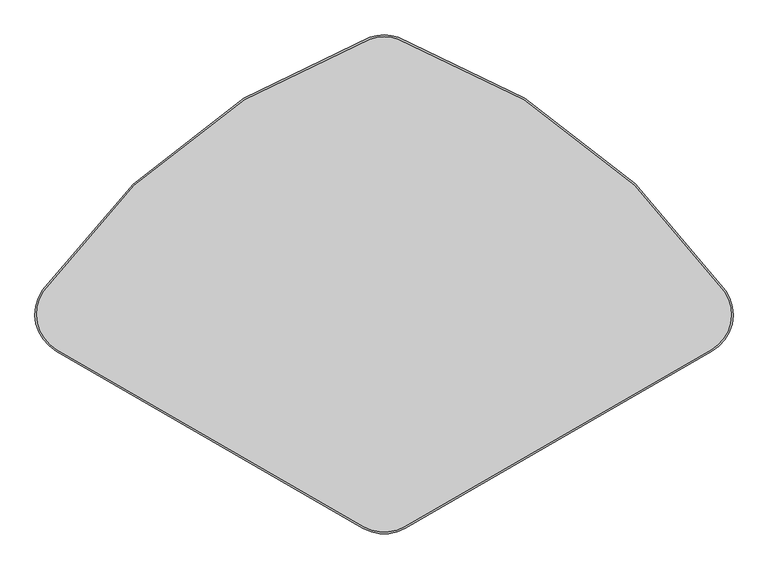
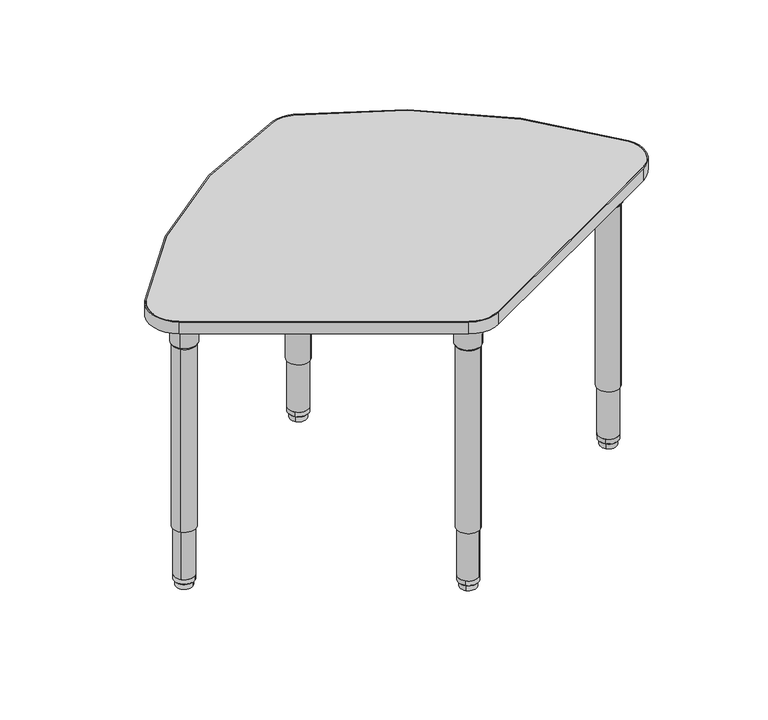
"""IFC4 building model written with IfcOpenShell, lengths in millimetres: furniture geometry, ERG-Mingle-Table-Tear_Droop : MGLTPD."""

from ifc_helpers import new_model, si_unit, point, frame, frame_2d, origin, place, context, project, spatial, polyline, circle_curve, trimmed, segment, composite_curve, outline, extrude, source, transform, mapped, element, save
from ifc_brep_helpers import plane_surface, cylinder_surface, revolved_surface, advanced_brep


def furniture_8ffb9708(model_context):
    return source(origin(), model_context, "Body", "SolidModel", [
        advanced_brep(
        [(517.9510449, 21.2381755, 650.5933069), (539.1892204, 0.0, 650.5933069), (560.4273958, -21.2381755, 650.5933069), (516.4600627, 22.7291577, 654.3580481), (561.918378, -22.7291577, 654.3580481), (515.7985771, 23.3906432, 707.7631458), (562.5798636, -23.3906432, 707.7631458), (513.3593755, 25.8298449, 714.1198315), (565.0190653, -25.8298449, 714.1198315), (513.3593755, 25.8298449, 726.8198315), (565.0190653, -25.8298449, 726.8198315), (539.1892204, 0.0, 726.8198315)],
        [
            (0, 1),
            (1, 2),
            (2, 0, circle_curve(frame((539.1892204, 0.0, 650.5933069), z_axis=(0.0, 0.0, -1.0), x_axis=(0.7071067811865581, -0.7071067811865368, 0.0)), 30.0353158)),
            (0, 2, circle_curve(frame((539.1892204, 0.0, 650.5933069), z_axis=(0.0, 0.0, -1.0), x_axis=(0.7071067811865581, -0.7071067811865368, 0.0)), 30.0353158)),
            (3, 0),
            (2, 4),
            (4, 3, circle_curve(frame((539.1892204, 0.0, 654.3580481), z_axis=(0.0, 0.0, -1.0), x_axis=(0.7071067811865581, -0.7071067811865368, 0.0)), 32.143883)),
            (3, 4, circle_curve(frame((539.1892204, 0.0, 654.3580481), z_axis=(0.0, 0.0, -1.0), x_axis=(0.7071067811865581, -0.7071067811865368, 0.0)), 32.143883)),
            (5, 3),
            (4, 6),
            (6, 5, circle_curve(frame((539.1892204, 0.0, 707.7631458), z_axis=(0.0, 0.0, -1.0), x_axis=(0.7071067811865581, -0.7071067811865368, 0.0)), 33.0793649)),
            (5, 6, circle_curve(frame((539.1892204, 0.0, 707.7631458), z_axis=(0.0, 0.0, -1.0), x_axis=(0.7071067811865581, -0.7071067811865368, 0.0)), 33.0793649)),
            (7, 5),
            (6, 8),
            (8, 7, circle_curve(frame((539.1892204, 0.0, 714.1198315), z_axis=(0.0, 0.0, -1.0), x_axis=(0.7071067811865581, -0.7071067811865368, 0.0)), 36.528917)),
            (7, 8, circle_curve(frame((539.1892204, 0.0, 714.1198315), z_axis=(0.0, 0.0, -1.0), x_axis=(0.7071067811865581, -0.7071067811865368, 0.0)), 36.528917)),
            (9, 7),
            (8, 10),
            (10, 9, circle_curve(frame((539.1892204, 0.0, 726.8198315), z_axis=(0.0, 0.0, -1.0), x_axis=(0.7071067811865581, -0.7071067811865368, 0.0)), 36.528917)),
            (9, 10, circle_curve(frame((539.1892204, 0.0, 726.8198315), z_axis=(0.0, 0.0, -1.0), x_axis=(0.7071067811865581, -0.7071067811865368, 0.0)), 36.528917)),
            (11, 9),
            (10, 11),
        ],
        [
            plane_surface(frame((539.1892204, 0.0, 650.5933069), z_axis=(0.0, 0.0, -1.0), x_axis=(0.7071067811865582, -0.7071067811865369, 0.0))),
            revolved_surface(polyline([(560.4273958, -21.2381755, 650.5933069), (561.918378, -22.7291577, 654.3580481)]), (539.1892204, 0.0, 726.8198315), (0.0, 0.0, 1.0)),
            revolved_surface(polyline([(561.918378, -22.7291577, 654.3580481), (562.5798636, -23.3906432, 707.7631458)]), (539.1892204, 0.0, 726.8198315), (0.0, 0.0, 1.0)),
            revolved_surface(polyline([(562.5798636, -23.3906432, 707.7631458), (565.0190653, -25.8298449, 714.1198315)]), (539.1892204, 0.0, 726.8198315), (0.0, 0.0, 1.0)),
            cylinder_surface(frame((539.1892204, 0.0, 726.8198315), z_axis=(0.0, 0.0, 1.0), x_axis=(0.7071067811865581, -0.7071067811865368, 0.0)), 36.528917),
            plane_surface(frame((539.1892204, 0.0, 726.8198315), z_axis=(0.0, 0.0, 1.0), x_axis=(0.7071067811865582, -0.7071067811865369, 0.0))),
        ],
        [
            (0, [[1, 2, 3]]),
            (0, [[-2, -1, 4]]),
            (1, [[5, -3, 6, 7]]),
            (1, [[-6, -4, -5, 8]]),
            (2, [[9, -7, 10, 11]]),
            (2, [[-10, -8, -9, 12]]),
            (3, [[13, -11, 14, 15]]),
            (3, [[-14, -12, -13, 16]]),
            (4, [[17, -15, 18, 19]]),
            (4, [[-18, -16, -17, 20]]),
            (5, [[21, -19, 22]]),
            (5, [[-22, -20, -21]]),
        ],
    ),
        extrude(outline(composite_curve([segment(trimmed(circle_curve(frame_2d((504.2553952, -81.8486178)), 12.7), [point((513.2356513, -90.828874))], [point((494.4268259, -89.8915791))], False, "CARTESIAN"), True, "CONTINUOUS"), segment(trimmed(circle_curve(frame_2d((605.255352, 0.8021447)), 143.2072406), [point((494.4268259, -89.8915791))], [point((494.4374446, 91.5088432))], False, "CARTESIAN"), True, "CONTINUOUS"), segment(trimmed(circle_curve(frame_2d((504.2650721, 83.4647313)), 12.7), [point((494.4374446, 91.5088432))], [point((513.2453283, 92.4449874))], False, "CARTESIAN"), True, "CONTINUOUS"), segment(polyline([(513.2453283, 92.4449874), (593.6521003, 12.0382154)]), True, "CONTINUOUS"), segment(trimmed(circle_curve(frame_2d((582.4267801, 0.8128952)), 15.875), [point((593.6521003, 12.0382154))], [point((593.6521003, -10.4124249))], False, "CARTESIAN"), True, "CONTINUOUS"), segment(polyline([(593.6521003, -10.4124249), (513.2356513, -90.828874)]), True, "CONTINUOUS")], self_intersect=False)), frame((0.0, 0.0, 726.8198315), z_axis=(0.0, 0.0, 1.0), x_axis=(1.0, 0.0, 0.0)), (0.0, 0.0, 1.0), 3.4301685),
        extrude(outline(composite_curve([segment(trimmed(circle_curve(frame_2d((539.1892204, 0.0)), 28.575), [point((559.3947966, -20.2055763))], [point((518.9836441, 20.2055763))], False, "CARTESIAN"), True, "CONTINUOUS"), segment(trimmed(circle_curve(frame_2d((539.1892204, 0.0)), 28.575), [point((518.9836441, 20.2055763))], [point((559.3947966, -20.2055763))], False, "CARTESIAN"), True, "CONTINUOUS")], self_intersect=False)), frame((0.0, 0.0, 158.3876979), z_axis=(0.0, 0.0, 1.0), x_axis=(1.0, 0.0, 0.0)), (0.0, 0.0, 1.0), 495.4089866),
        extrude(outline(composite_curve([segment(trimmed(circle_curve(frame_2d((539.1892204, 0.0)), 25.4), [point((557.1497326, -17.9605122))], [point((521.2287081, 17.9605122))], False, "CARTESIAN"), True, "CONTINUOUS"), segment(trimmed(circle_curve(frame_2d((539.1892204, 0.0)), 25.4), [point((521.2287081, 17.9605122))], [point((557.1497326, -17.9605122))], False, "CARTESIAN"), True, "CONTINUOUS")], self_intersect=False)), frame((0.0, 0.0, 28.9580435), z_axis=(0.0, 0.0, 1.0), x_axis=(1.0, 0.0, 0.0)), (0.0, 0.0, 1.0), 176.7049119),
        advanced_brep(
        [(521.3453734, -17.843847, 28.9580185), (539.1892204, 0.0, 28.9580185), (557.0330673, 17.843847, 28.9580185), (521.4413783, -17.7478421, 16.3032949), (556.9370625, 17.7478421, 16.3032949), (522.5128578, -16.6763626, 14.7291007), (555.8655829, 16.6763626, 14.7291007), (524.2403765, -14.9488439, 14.7291007), (554.1380643, 14.9488439, 14.7291007), (524.376842, -14.8123784, 0.0), (554.0015987, 14.8123784, 0.0), (539.1892204, 0.0, 0.0)],
        [
            (0, 1),
            (1, 2),
            (2, 0, circle_curve(frame((539.1892204, 0.0, 28.9580185), z_axis=(0.0, 0.0, 1.0), x_axis=(0.7071067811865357, 0.7071067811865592, 0.0)), 25.2350104)),
            (0, 2, circle_curve(frame((539.1892204, 0.0, 28.9580185), z_axis=(0.0, 0.0, 1.0), x_axis=(0.7071067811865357, 0.7071067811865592, 0.0)), 25.2350104)),
            (3, 0),
            (2, 4),
            (4, 3, circle_curve(frame((539.1892204, 0.0, 16.3032949), z_axis=(0.0, 0.0, 1.0), x_axis=(0.7071067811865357, 0.7071067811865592, 0.0)), 25.099239)),
            (3, 4, circle_curve(frame((539.1892204, 0.0, 16.3032949), z_axis=(0.0, 0.0, 1.0), x_axis=(0.7071067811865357, 0.7071067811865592, 0.0)), 25.099239)),
            (5, 3),
            (4, 6),
            (6, 5, circle_curve(frame((539.1892204, 0.0, 14.7291007), z_axis=(0.0, 0.0, 1.0), x_axis=(0.7071067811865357, 0.7071067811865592, 0.0)), 23.5839381)),
            (5, 6, circle_curve(frame((539.1892204, 0.0, 14.7291007), z_axis=(0.0, 0.0, 1.0), x_axis=(0.7071067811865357, 0.7071067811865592, 0.0)), 23.5839381)),
            (7, 5),
            (6, 8),
            (8, 7, circle_curve(frame((539.1892204, 0.0, 14.7291007), z_axis=(0.0, 0.0, 1.0), x_axis=(0.7071067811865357, 0.7071067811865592, 0.0)), 21.1408578)),
            (7, 8, circle_curve(frame((539.1892204, 0.0, 14.7291007), z_axis=(0.0, 0.0, 1.0), x_axis=(0.7071067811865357, 0.7071067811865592, 0.0)), 21.1408578)),
            (9, 7),
            (8, 10),
            (10, 9, circle_curve(frame((539.1892204, 0.0, 0.0), z_axis=(0.0, 0.0, 1.0), x_axis=(0.7071067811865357, 0.7071067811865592, 0.0)), 20.9478664)),
            (9, 10, circle_curve(frame((539.1892204, 0.0, 0.0), z_axis=(0.0, 0.0, 1.0), x_axis=(0.7071067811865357, 0.7071067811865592, 0.0)), 20.9478664)),
            (11, 9),
            (10, 11),
        ],
        [
            plane_surface(frame((539.1892204, 0.0, 28.9580185), z_axis=(0.0, 0.0, 1.0000000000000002), x_axis=(0.7071067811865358, 0.7071067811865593, 0.0))),
            revolved_surface(polyline([(557.0330673, 17.843847, 28.9580185), (556.9370625, 17.7478421, 16.3032949)]), (539.1892204, 0.0, 0.0), (0.0, 0.0, -1.0)),
            revolved_surface(polyline([(556.9370625, 17.7478421, 16.3032949), (555.8655829, 16.6763626, 14.7291007)]), (539.1892204, 0.0, 0.0), (0.0, 0.0, -1.0)),
            plane_surface(frame((539.1892204, 0.0, 14.7291007), z_axis=(0.0, 0.0, -1.0000000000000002), x_axis=(0.7071067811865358, 0.7071067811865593, 0.0))),
            revolved_surface(polyline([(554.1380643, 14.9488439, 14.7291007), (554.0015987, 14.8123784, 0.0)]), (539.1892204, 0.0, 0.0), (0.0, 0.0, -1.0)),
            plane_surface(frame((539.1892204, 0.0, 0.0), z_axis=(0.0, 0.0, -1.0000000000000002), x_axis=(0.7071067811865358, 0.7071067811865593, 0.0))),
        ],
        [
            (0, [[1, 2, 3]]),
            (0, [[-2, -1, 4]]),
            (1, [[5, -3, 6, 7]]),
            (1, [[-6, -4, -5, 8]]),
            (2, [[9, -7, 10, 11]]),
            (2, [[-10, -8, -9, 12]]),
            (3, [[13, -11, 14, 15]]),
            (3, [[-14, -12, -13, 16]]),
            (4, [[17, -15, 18, 19]]),
            (4, [[-18, -16, -17, 20]]),
            (5, [[21, -19, 22]]),
            (5, [[-22, -20, -21]]),
        ],
    ),
        advanced_brep(
        [(-21.2381755, -295.7010449, 650.5933069), (21.2381755, -338.1773958, 650.5933069), (0.0, -316.9392204, 650.5933069), (-22.7291577, -294.2100627, 654.3580481), (22.7291577, -339.668378, 654.3580481), (-23.3906432, -293.5485771, 707.7631458), (23.3906432, -340.3298636, 707.7631458), (-25.8298449, -291.1093755, 714.1198315), (25.8298449, -342.7690653, 714.1198315), (-25.8298449, -291.1093755, 726.8198315), (25.8298449, -342.7690653, 726.8198315), (0.0, -316.9392204, 726.8198315)],
        [
            (0, 1, circle_curve(frame((0.0, -316.9392204, 650.5933069), z_axis=(0.0, 0.0, -1.0), x_axis=(0.7071067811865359, -0.707106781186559, 0.0)), 30.0353158)),
            (1, 2),
            (2, 0),
            (1, 0, circle_curve(frame((0.0, -316.9392204, 650.5933069), z_axis=(0.0, 0.0, -1.0), x_axis=(0.7071067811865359, -0.707106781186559, 0.0)), 30.0353158)),
            (3, 4, circle_curve(frame((0.0, -316.9392204, 654.3580481), z_axis=(0.0, 0.0, -1.0), x_axis=(0.7071067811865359, -0.707106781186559, 0.0)), 32.143883)),
            (4, 1),
            (0, 3),
            (4, 3, circle_curve(frame((0.0, -316.9392204, 654.3580481), z_axis=(0.0, 0.0, -1.0), x_axis=(0.7071067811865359, -0.707106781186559, 0.0)), 32.143883)),
            (5, 6, circle_curve(frame((0.0, -316.9392204, 707.7631458), z_axis=(0.0, 0.0, -1.0), x_axis=(0.7071067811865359, -0.707106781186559, 0.0)), 33.0793649)),
            (6, 4),
            (3, 5),
            (6, 5, circle_curve(frame((0.0, -316.9392204, 707.7631458), z_axis=(0.0, 0.0, -1.0), x_axis=(0.7071067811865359, -0.707106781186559, 0.0)), 33.0793649)),
            (7, 8, circle_curve(frame((0.0, -316.9392204, 714.1198315), z_axis=(0.0, 0.0, -1.0), x_axis=(0.7071067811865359, -0.707106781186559, 0.0)), 36.528917)),
            (8, 6),
            (5, 7),
            (8, 7, circle_curve(frame((0.0, -316.9392204, 714.1198315), z_axis=(0.0, 0.0, -1.0), x_axis=(0.7071067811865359, -0.707106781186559, 0.0)), 36.528917)),
            (9, 10, circle_curve(frame((0.0, -316.9392204, 726.8198315), z_axis=(0.0, 0.0, -1.0), x_axis=(0.7071067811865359, -0.707106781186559, 0.0)), 36.528917)),
            (10, 8),
            (7, 9),
            (10, 9, circle_curve(frame((0.0, -316.9392204, 726.8198315), z_axis=(0.0, 0.0, -1.0), x_axis=(0.7071067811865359, -0.707106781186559, 0.0)), 36.528917)),
            (11, 10),
            (9, 11),
        ],
        [
            plane_surface(frame((0.0, -316.9392204, 650.5933069), z_axis=(0.0, 0.0, -1.0000000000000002), x_axis=(0.707106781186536, -0.7071067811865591, 0.0))),
            revolved_surface(polyline([(21.2381755, -338.1773958, 650.5933069), (22.7291577, -339.668378, 654.3580481)]), (0.0, -316.9392204, 726.8198315), (0.0, 0.0, 1.0)),
            revolved_surface(polyline([(22.7291577, -339.668378, 654.3580481), (23.3906432, -340.3298636, 707.7631458)]), (0.0, -316.9392204, 726.8198315), (0.0, 0.0, 1.0)),
            revolved_surface(polyline([(23.3906432, -340.3298636, 707.7631458), (25.8298449, -342.7690653, 714.1198315)]), (0.0, -316.9392204, 726.8198315), (0.0, 0.0, 1.0)),
            cylinder_surface(frame((0.0, -316.9392204, 726.8198315), z_axis=(0.0, 0.0, 1.0), x_axis=(0.7071067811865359, -0.707106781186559, 0.0)), 36.528917),
            plane_surface(frame((0.0, -316.9392204, 726.8198315), z_axis=(0.0, 0.0, 1.0000000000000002), x_axis=(0.707106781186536, -0.7071067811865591, 0.0))),
        ],
        [
            (0, [[1, 2, 3]]),
            (0, [[4, -3, -2]]),
            (1, [[5, 6, -1, 7]]),
            (1, [[8, -7, -4, -6]]),
            (2, [[9, 10, -5, 11]]),
            (2, [[12, -11, -8, -10]]),
            (3, [[13, 14, -9, 15]]),
            (3, [[16, -15, -12, -14]]),
            (4, [[17, 18, -13, 19]]),
            (4, [[20, -19, -16, -18]]),
            (5, [[21, -17, 22]]),
            (5, [[-22, -20, -21]]),
        ],
    ),
        extrude(outline(composite_curve([segment(polyline([(90.828874, -290.9856513), (10.4124249, -371.4021003)]), True, "CONTINUOUS"), segment(trimmed(circle_curve(frame_2d((-0.8128952, -360.1767801)), 15.875), [point((10.4124249, -371.4021003))], [point((-12.0382154, -371.4021003))], False, "CARTESIAN"), True, "CONTINUOUS"), segment(polyline([(-12.0382154, -371.4021003), (-92.4449874, -290.9953283)]), True, "CONTINUOUS"), segment(trimmed(circle_curve(frame_2d((-83.4647313, -282.0150721)), 12.7), [point((-92.4449874, -290.9953283))], [point((-91.5088432, -272.1874446))], False, "CARTESIAN"), True, "CONTINUOUS"), segment(trimmed(circle_curve(frame_2d((-0.8021447, -383.005352)), 143.2072406), [point((-91.5088432, -272.1874446))], [point((89.8915791, -272.1768259))], False, "CARTESIAN"), True, "CONTINUOUS"), segment(trimmed(circle_curve(frame_2d((81.8486178, -282.0053952)), 12.7), [point((89.8915791, -272.1768259))], [point((90.828874, -290.9856513))], False, "CARTESIAN"), True, "CONTINUOUS")], self_intersect=False)), frame((0.0, 0.0, 726.8198315), z_axis=(0.0, 0.0, 1.0), x_axis=(1.0, 0.0, 0.0)), (0.0, 0.0, 1.0), 3.4301685),
        extrude(outline(composite_curve([segment(trimmed(circle_curve(frame_2d((0.0, -316.9392204)), 28.575), [point((20.2055763, -337.1447966))], [point((-20.2055763, -296.7336441))], False, "CARTESIAN"), True, "CONTINUOUS"), segment(trimmed(circle_curve(frame_2d((0.0, -316.9392204)), 28.575), [point((-20.2055763, -296.7336441))], [point((20.2055763, -337.1447966))], False, "CARTESIAN"), True, "CONTINUOUS")], self_intersect=False)), frame((0.0, 0.0, 158.3876979), z_axis=(0.0, 0.0, 1.0), x_axis=(1.0, 0.0, 0.0)), (0.0, 0.0, 1.0), 495.4089866),
        extrude(outline(composite_curve([segment(trimmed(circle_curve(frame_2d((0.0, -316.9392204)), 25.4), [point((17.9605122, -334.8997326))], [point((-17.9605122, -298.9787081))], False, "CARTESIAN"), True, "CONTINUOUS"), segment(trimmed(circle_curve(frame_2d((0.0, -316.9392204)), 25.4), [point((-17.9605122, -298.9787081))], [point((17.9605122, -334.8997326))], False, "CARTESIAN"), True, "CONTINUOUS")], self_intersect=False)), frame((0.0, 0.0, 28.9580435), z_axis=(0.0, 0.0, 1.0), x_axis=(1.0, 0.0, 0.0)), (0.0, 0.0, 1.0), 176.7049119),
        advanced_brep(
        [(17.843847, -299.0953734, 28.9580185), (-17.843847, -334.7830673, 28.9580185), (0.0, -316.9392204, 28.9580185), (17.7478421, -299.1913783, 16.3032949), (-17.7478421, -334.6870625, 16.3032949), (16.6763626, -300.2628578, 14.7291007), (-16.6763626, -333.6155829, 14.7291007), (14.9488439, -301.9903765, 14.7291007), (-14.9488439, -331.8880643, 14.7291007), (14.8123784, -302.126842, 0.0), (-14.8123784, -331.7515987, 0.0), (0.0, -316.9392204, 0.0)],
        [
            (0, 1, circle_curve(frame((0.0, -316.9392204, 28.9580185), z_axis=(0.0, 0.0, 1.0), x_axis=(-0.7071067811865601, -0.7071067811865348, 0.0)), 25.2350104)),
            (1, 2),
            (2, 0),
            (1, 0, circle_curve(frame((0.0, -316.9392204, 28.9580185), z_axis=(0.0, 0.0, 1.0), x_axis=(-0.7071067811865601, -0.7071067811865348, 0.0)), 25.2350104)),
            (3, 4, circle_curve(frame((0.0, -316.9392204, 16.3032949), z_axis=(0.0, 0.0, 1.0), x_axis=(-0.7071067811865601, -0.7071067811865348, 0.0)), 25.099239)),
            (4, 1),
            (0, 3),
            (4, 3, circle_curve(frame((0.0, -316.9392204, 16.3032949), z_axis=(0.0, 0.0, 1.0), x_axis=(-0.7071067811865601, -0.7071067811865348, 0.0)), 25.099239)),
            (5, 6, circle_curve(frame((0.0, -316.9392204, 14.7291007), z_axis=(0.0, 0.0, 1.0), x_axis=(-0.7071067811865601, -0.7071067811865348, 0.0)), 23.5839381)),
            (6, 4),
            (3, 5),
            (6, 5, circle_curve(frame((0.0, -316.9392204, 14.7291007), z_axis=(0.0, 0.0, 1.0), x_axis=(-0.7071067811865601, -0.7071067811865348, 0.0)), 23.5839381)),
            (7, 8, circle_curve(frame((0.0, -316.9392204, 14.7291007), z_axis=(0.0, 0.0, 1.0), x_axis=(-0.7071067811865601, -0.7071067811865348, 0.0)), 21.1408578)),
            (8, 6),
            (5, 7),
            (8, 7, circle_curve(frame((0.0, -316.9392204, 14.7291007), z_axis=(0.0, 0.0, 1.0), x_axis=(-0.7071067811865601, -0.7071067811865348, 0.0)), 21.1408578)),
            (9, 10, circle_curve(frame((0.0, -316.9392204, 0.0), z_axis=(0.0, 0.0, 1.0), x_axis=(-0.7071067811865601, -0.7071067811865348, 0.0)), 20.9478664)),
            (10, 8),
            (7, 9),
            (10, 9, circle_curve(frame((0.0, -316.9392204, 0.0), z_axis=(0.0, 0.0, 1.0), x_axis=(-0.7071067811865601, -0.7071067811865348, 0.0)), 20.9478664)),
            (11, 10),
            (9, 11),
        ],
        [
            plane_surface(frame((0.0, -316.9392204, 28.9580185), z_axis=(0.0, 0.0, 1.0000000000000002), x_axis=(-0.7071067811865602, -0.7071067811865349, 0.0))),
            revolved_surface(polyline([(-17.843847, -334.7830673, 28.9580185), (-17.7478421, -334.6870625, 16.3032949)]), (0.0, -316.9392204, 0.0), (0.0, 0.0, -1.0)),
            revolved_surface(polyline([(-17.7478421, -334.6870625, 16.3032949), (-16.6763626, -333.6155829, 14.7291007)]), (0.0, -316.9392204, 0.0), (0.0, 0.0, -1.0)),
            plane_surface(frame((0.0, -316.9392204, 14.7291007), z_axis=(0.0, 0.0, -1.0000000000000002), x_axis=(-0.7071067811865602, -0.7071067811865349, 0.0))),
            revolved_surface(polyline([(-14.9488439, -331.8880643, 14.7291007), (-14.8123784, -331.7515987, 0.0)]), (0.0, -316.9392204, 0.0), (0.0, 0.0, -1.0)),
            plane_surface(frame((0.0, -316.9392204, 0.0), z_axis=(0.0, 0.0, -1.0000000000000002), x_axis=(-0.7071067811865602, -0.7071067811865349, 0.0))),
        ],
        [
            (0, [[1, 2, 3]]),
            (0, [[4, -3, -2]]),
            (1, [[5, 6, -1, 7]]),
            (1, [[8, -7, -4, -6]]),
            (2, [[9, 10, -5, 11]]),
            (2, [[12, -11, -8, -10]]),
            (3, [[13, 14, -9, 15]]),
            (3, [[16, -15, -12, -14]]),
            (4, [[17, 18, -13, 19]]),
            (4, [[20, -19, -16, -18]]),
            (5, [[21, -17, 22]]),
            (5, [[-22, -20, -21]]),
        ],
    ),
        advanced_brep(
        [(21.2381755, 410.0010449, 650.5933069), (-21.2381755, 452.4773958, 650.5933069), (0.0, 431.2392204, 650.5933069), (22.7291577, 408.5100627, 654.3580481), (-22.7291577, 453.968378, 654.3580481), (23.3906432, 407.8485771, 707.7631458), (-23.3906432, 454.6298636, 707.7631458), (25.8298449, 405.4093755, 714.1198315), (-25.8298449, 457.0690653, 714.1198315), (25.8298449, 405.4093755, 726.8198315), (-25.8298449, 457.0690653, 726.8198315), (0.0, 431.2392204, 726.8198315)],
        [
            (0, 1, circle_curve(frame((0.0, 431.2392204, 650.5933069), z_axis=(0.0, 0.0, -1.0), x_axis=(-0.7071067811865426, 0.7071067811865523, 0.0)), 30.0353158)),
            (1, 2),
            (2, 0),
            (1, 0, circle_curve(frame((0.0, 431.2392204, 650.5933069), z_axis=(0.0, 0.0, -1.0), x_axis=(-0.7071067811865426, 0.7071067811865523, 0.0)), 30.0353158)),
            (3, 4, circle_curve(frame((0.0, 431.2392204, 654.3580481), z_axis=(0.0, 0.0, -1.0), x_axis=(-0.7071067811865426, 0.7071067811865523, 0.0)), 32.143883)),
            (4, 1),
            (0, 3),
            (4, 3, circle_curve(frame((0.0, 431.2392204, 654.3580481), z_axis=(0.0, 0.0, -1.0), x_axis=(-0.7071067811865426, 0.7071067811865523, 0.0)), 32.143883)),
            (5, 6, circle_curve(frame((0.0, 431.2392204, 707.7631458), z_axis=(0.0, 0.0, -1.0), x_axis=(-0.7071067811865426, 0.7071067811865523, 0.0)), 33.0793649)),
            (6, 4),
            (3, 5),
            (6, 5, circle_curve(frame((0.0, 431.2392204, 707.7631458), z_axis=(0.0, 0.0, -1.0), x_axis=(-0.7071067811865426, 0.7071067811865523, 0.0)), 33.0793649)),
            (7, 8, circle_curve(frame((0.0, 431.2392204, 714.1198315), z_axis=(0.0, 0.0, -1.0), x_axis=(-0.7071067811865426, 0.7071067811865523, 0.0)), 36.528917)),
            (8, 6),
            (5, 7),
            (8, 7, circle_curve(frame((0.0, 431.2392204, 714.1198315), z_axis=(0.0, 0.0, -1.0), x_axis=(-0.7071067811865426, 0.7071067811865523, 0.0)), 36.528917)),
            (9, 10, circle_curve(frame((0.0, 431.2392204, 726.8198315), z_axis=(0.0, 0.0, -1.0), x_axis=(-0.7071067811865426, 0.7071067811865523, 0.0)), 36.528917)),
            (10, 8),
            (7, 9),
            (10, 9, circle_curve(frame((0.0, 431.2392204, 726.8198315), z_axis=(0.0, 0.0, -1.0), x_axis=(-0.7071067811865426, 0.7071067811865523, 0.0)), 36.528917)),
            (11, 10),
            (9, 11),
        ],
        [
            plane_surface(frame((0.0, 431.2392204, 650.5933069), z_axis=(0.0, 0.0, -1.0000000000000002), x_axis=(-0.7071067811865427, 0.7071067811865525, 0.0))),
            revolved_surface(polyline([(-21.2381755, 452.4773958, 650.5933069), (-22.7291577, 453.968378, 654.3580481)]), (0.0, 431.2392204, 726.8198315), (0.0, 0.0, 1.0)),
            revolved_surface(polyline([(-22.7291577, 453.968378, 654.3580481), (-23.3906432, 454.6298636, 707.7631458)]), (0.0, 431.2392204, 726.8198315), (0.0, 0.0, 1.0)),
            revolved_surface(polyline([(-23.3906432, 454.6298636, 707.7631458), (-25.8298449, 457.0690653, 714.1198315)]), (0.0, 431.2392204, 726.8198315), (0.0, 0.0, 1.0)),
            cylinder_surface(frame((0.0, 431.2392204, 726.8198315), z_axis=(0.0, 0.0, 1.0), x_axis=(-0.7071067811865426, 0.7071067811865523, 0.0)), 36.528917),
            plane_surface(frame((0.0, 431.2392204, 726.8198315), z_axis=(0.0, 0.0, 1.0000000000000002), x_axis=(-0.7071067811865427, 0.7071067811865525, 0.0))),
        ],
        [
            (0, [[1, 2, 3]]),
            (0, [[4, -3, -2]]),
            (1, [[5, 6, -1, 7]]),
            (1, [[8, -7, -4, -6]]),
            (2, [[9, 10, -5, 11]]),
            (2, [[12, -11, -8, -10]]),
            (3, [[13, 14, -9, 15]]),
            (3, [[16, -15, -12, -14]]),
            (4, [[17, 18, -13, 19]]),
            (4, [[20, -19, -16, -18]]),
            (5, [[21, -17, 22]]),
            (5, [[-22, -20, -21]]),
        ],
    ),
        extrude(outline(composite_curve([segment(polyline([(-90.828874, 405.2856513), (-10.4124249, 485.7021003)]), True, "CONTINUOUS"), segment(trimmed(circle_curve(frame_2d((0.8128952, 474.4767801)), 15.875), [point((-10.4124249, 485.7021003))], [point((12.0382154, 485.7021003))], False, "CARTESIAN"), True, "CONTINUOUS"), segment(polyline([(12.0382154, 485.7021003), (92.4449874, 405.2953283)]), True, "CONTINUOUS"), segment(trimmed(circle_curve(frame_2d((83.4647313, 396.3150721)), 12.7), [point((92.4449874, 405.2953283))], [point((91.5088432, 386.4874446))], False, "CARTESIAN"), True, "CONTINUOUS"), segment(trimmed(circle_curve(frame_2d((0.8021447, 497.305352)), 143.2072406), [point((91.5088432, 386.4874446))], [point((-89.8915791, 386.4768259))], False, "CARTESIAN"), True, "CONTINUOUS"), segment(trimmed(circle_curve(frame_2d((-81.8486178, 396.3053952)), 12.7), [point((-89.8915791, 386.4768259))], [point((-90.828874, 405.2856513))], False, "CARTESIAN"), True, "CONTINUOUS")], self_intersect=False)), frame((0.0, 0.0, 726.8198315), z_axis=(0.0, 0.0, 1.0), x_axis=(1.0, 0.0, 0.0)), (0.0, 0.0, 1.0), 3.4301685),
        extrude(outline(composite_curve([segment(trimmed(circle_curve(frame_2d((0.0, 431.2392204)), 28.575), [point((-20.2055763, 451.4447966))], [point((20.2055763, 411.0336441))], False, "CARTESIAN"), True, "CONTINUOUS"), segment(trimmed(circle_curve(frame_2d((0.0, 431.2392204)), 28.575), [point((20.2055763, 411.0336441))], [point((-20.2055763, 451.4447966))], False, "CARTESIAN"), True, "CONTINUOUS")], self_intersect=False)), frame((0.0, 0.0, 158.3876979), z_axis=(0.0, 0.0, 1.0), x_axis=(1.0, 0.0, 0.0)), (0.0, 0.0, 1.0), 495.4089866),
        extrude(outline(composite_curve([segment(trimmed(circle_curve(frame_2d((0.0, 431.2392204)), 25.4), [point((-17.9605122, 449.1997326))], [point((17.9605122, 413.2787081))], False, "CARTESIAN"), True, "CONTINUOUS"), segment(trimmed(circle_curve(frame_2d((0.0, 431.2392204)), 25.4), [point((17.9605122, 413.2787081))], [point((-17.9605122, 449.1997326))], False, "CARTESIAN"), True, "CONTINUOUS")], self_intersect=False)), frame((0.0, 0.0, 28.9580435), z_axis=(0.0, 0.0, 1.0), x_axis=(1.0, 0.0, 0.0)), (0.0, 0.0, 1.0), 176.7049119),
        advanced_brep(
        [(-17.843847, 413.3953734, 28.9580185), (17.843847, 449.0830673, 28.9580185), (0.0, 431.2392204, 28.9580185), (-17.7478421, 413.4913783, 16.3032949), (17.7478421, 448.9870625, 16.3032949), (-16.6763626, 414.5628578, 14.7291007), (16.6763626, 447.9155829, 14.7291007), (-14.9488439, 416.2903765, 14.7291007), (14.9488439, 446.1880643, 14.7291007), (-14.8123784, 416.426842, 0.0), (14.8123784, 446.0515987, 0.0), (0.0, 431.2392204, 0.0)],
        [
            (0, 1, circle_curve(frame((0.0, 431.2392204, 28.9580185), z_axis=(0.0, 0.0, 1.0), x_axis=(0.7071067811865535, 0.7071067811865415, 0.0)), 25.2350104)),
            (1, 2),
            (2, 0),
            (1, 0, circle_curve(frame((0.0, 431.2392204, 28.9580185), z_axis=(0.0, 0.0, 1.0), x_axis=(0.7071067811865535, 0.7071067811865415, 0.0)), 25.2350104)),
            (3, 4, circle_curve(frame((0.0, 431.2392204, 16.3032949), z_axis=(0.0, 0.0, 1.0), x_axis=(0.7071067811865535, 0.7071067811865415, 0.0)), 25.099239)),
            (4, 1),
            (0, 3),
            (4, 3, circle_curve(frame((0.0, 431.2392204, 16.3032949), z_axis=(0.0, 0.0, 1.0), x_axis=(0.7071067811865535, 0.7071067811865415, 0.0)), 25.099239)),
            (5, 6, circle_curve(frame((0.0, 431.2392204, 14.7291007), z_axis=(0.0, 0.0, 1.0), x_axis=(0.7071067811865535, 0.7071067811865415, 0.0)), 23.5839381)),
            (6, 4),
            (3, 5),
            (6, 5, circle_curve(frame((0.0, 431.2392204, 14.7291007), z_axis=(0.0, 0.0, 1.0), x_axis=(0.7071067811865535, 0.7071067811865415, 0.0)), 23.5839381)),
            (7, 8, circle_curve(frame((0.0, 431.2392204, 14.7291007), z_axis=(0.0, 0.0, 1.0), x_axis=(0.7071067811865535, 0.7071067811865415, 0.0)), 21.1408578)),
            (8, 6),
            (5, 7),
            (8, 7, circle_curve(frame((0.0, 431.2392204, 14.7291007), z_axis=(0.0, 0.0, 1.0), x_axis=(0.7071067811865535, 0.7071067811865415, 0.0)), 21.1408578)),
            (9, 10, circle_curve(frame((0.0, 431.2392204, 0.0), z_axis=(0.0, 0.0, 1.0), x_axis=(0.7071067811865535, 0.7071067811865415, 0.0)), 20.9478664)),
            (10, 8),
            (7, 9),
            (10, 9, circle_curve(frame((0.0, 431.2392204, 0.0), z_axis=(0.0, 0.0, 1.0), x_axis=(0.7071067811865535, 0.7071067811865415, 0.0)), 20.9478664)),
            (11, 10),
            (9, 11),
        ],
        [
            plane_surface(frame((0.0, 431.2392204, 28.9580185), z_axis=(0.0, 0.0, 1.0), x_axis=(0.7071067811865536, 0.7071067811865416, 0.0))),
            revolved_surface(polyline([(17.843847, 449.0830673, 28.9580185), (17.7478421, 448.9870625, 16.3032949)]), (0.0, 431.2392204, 0.0), (0.0, 0.0, -1.0)),
            revolved_surface(polyline([(17.7478421, 448.9870625, 16.3032949), (16.6763626, 447.9155829, 14.7291007)]), (0.0, 431.2392204, 0.0), (0.0, 0.0, -1.0)),
            plane_surface(frame((0.0, 431.2392204, 14.7291007), z_axis=(0.0, 0.0, -1.0), x_axis=(0.7071067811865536, 0.7071067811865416, 0.0))),
            revolved_surface(polyline([(14.9488439, 446.1880643, 14.7291007), (14.8123784, 446.0515987, 0.0)]), (0.0, 431.2392204, 0.0), (0.0, 0.0, -1.0)),
            plane_surface(frame((0.0, 431.2392204, 0.0), z_axis=(0.0, 0.0, -1.0), x_axis=(0.7071067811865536, 0.7071067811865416, 0.0))),
        ],
        [
            (0, [[1, 2, 3]]),
            (0, [[4, -3, -2]]),
            (1, [[5, 6, -1, 7]]),
            (1, [[8, -7, -4, -6]]),
            (2, [[9, 10, -5, 11]]),
            (2, [[12, -11, -8, -10]]),
            (3, [[13, 14, -9, 15]]),
            (3, [[16, -15, -12, -14]]),
            (4, [[17, 18, -13, 19]]),
            (4, [[20, -19, -16, -18]]),
            (5, [[21, -17, 22]]),
            (5, [[-22, -20, -21]]),
        ],
    ),
        advanced_brep(
        [(-517.9510449, 21.2381755, 650.5933069), (-560.4273958, -21.2381755, 650.5933069), (-539.1892204, 0.0, 650.5933069), (-516.4600627, 22.7291577, 654.3580481), (-561.918378, -22.7291577, 654.3580481), (-515.7985771, 23.3906432, 707.7631458), (-562.5798636, -23.3906432, 707.7631458), (-513.3593755, 25.8298449, 714.1198315), (-565.0190653, -25.8298449, 714.1198315), (-513.3593755, 25.8298449, 726.8198315), (-565.0190653, -25.8298449, 726.8198315), (-539.1892204, 0.0, 726.8198315)],
        [
            (0, 1, circle_curve(frame((-539.1892204, 0.0, 650.5933069), z_axis=(0.0, 0.0, -1.0), x_axis=(-0.7071067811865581, -0.7071067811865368, 0.0)), 30.0353158)),
            (1, 2),
            (2, 0),
            (1, 0, circle_curve(frame((-539.1892204, 0.0, 650.5933069), z_axis=(0.0, 0.0, -1.0), x_axis=(-0.7071067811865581, -0.7071067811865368, 0.0)), 30.0353158)),
            (3, 4, circle_curve(frame((-539.1892204, 0.0, 654.3580481), z_axis=(0.0, 0.0, -1.0), x_axis=(-0.7071067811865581, -0.7071067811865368, 0.0)), 32.143883)),
            (4, 1),
            (0, 3),
            (4, 3, circle_curve(frame((-539.1892204, 0.0, 654.3580481), z_axis=(0.0, 0.0, -1.0), x_axis=(-0.7071067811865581, -0.7071067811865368, 0.0)), 32.143883)),
            (5, 6, circle_curve(frame((-539.1892204, 0.0, 707.7631458), z_axis=(0.0, 0.0, -1.0), x_axis=(-0.7071067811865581, -0.7071067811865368, 0.0)), 33.0793649)),
            (6, 4),
            (3, 5),
            (6, 5, circle_curve(frame((-539.1892204, 0.0, 707.7631458), z_axis=(0.0, 0.0, -1.0), x_axis=(-0.7071067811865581, -0.7071067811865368, 0.0)), 33.0793649)),
            (7, 8, circle_curve(frame((-539.1892204, 0.0, 714.1198315), z_axis=(0.0, 0.0, -1.0), x_axis=(-0.7071067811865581, -0.7071067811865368, 0.0)), 36.528917)),
            (8, 6),
            (5, 7),
            (8, 7, circle_curve(frame((-539.1892204, 0.0, 714.1198315), z_axis=(0.0, 0.0, -1.0), x_axis=(-0.7071067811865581, -0.7071067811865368, 0.0)), 36.528917)),
            (9, 10, circle_curve(frame((-539.1892204, 0.0, 726.8198315), z_axis=(0.0, 0.0, -1.0), x_axis=(-0.7071067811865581, -0.7071067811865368, 0.0)), 36.528917)),
            (10, 8),
            (7, 9),
            (10, 9, circle_curve(frame((-539.1892204, 0.0, 726.8198315), z_axis=(0.0, 0.0, -1.0), x_axis=(-0.7071067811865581, -0.7071067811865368, 0.0)), 36.528917)),
            (11, 10),
            (9, 11),
        ],
        [
            plane_surface(frame((-539.1892204, 0.0, 650.5933069), z_axis=(0.0, 0.0, -1.0), x_axis=(-0.7071067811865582, -0.7071067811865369, 0.0))),
            revolved_surface(polyline([(-560.4273958, -21.2381755, 650.5933069), (-561.918378, -22.7291577, 654.3580481)]), (-539.1892204, 0.0, 726.8198315), (0.0, 0.0, 1.0)),
            revolved_surface(polyline([(-561.918378, -22.7291577, 654.3580481), (-562.5798636, -23.3906432, 707.7631458)]), (-539.1892204, 0.0, 726.8198315), (0.0, 0.0, 1.0)),
            revolved_surface(polyline([(-562.5798636, -23.3906432, 707.7631458), (-565.0190653, -25.8298449, 714.1198315)]), (-539.1892204, 0.0, 726.8198315), (0.0, 0.0, 1.0)),
            cylinder_surface(frame((-539.1892204, 0.0, 726.8198315), z_axis=(0.0, 0.0, 1.0), x_axis=(-0.7071067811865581, -0.7071067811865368, 0.0)), 36.528917),
            plane_surface(frame((-539.1892204, 0.0, 726.8198315), z_axis=(0.0, 0.0, 1.0), x_axis=(-0.7071067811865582, -0.7071067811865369, 0.0))),
        ],
        [
            (0, [[1, 2, 3]]),
            (0, [[4, -3, -2]]),
            (1, [[5, 6, -1, 7]]),
            (1, [[8, -7, -4, -6]]),
            (2, [[9, 10, -5, 11]]),
            (2, [[12, -11, -8, -10]]),
            (3, [[13, 14, -9, 15]]),
            (3, [[16, -15, -12, -14]]),
            (4, [[17, 18, -13, 19]]),
            (4, [[20, -19, -16, -18]]),
            (5, [[21, -17, 22]]),
            (5, [[-22, -20, -21]]),
        ],
    ),
        extrude(outline(composite_curve([segment(polyline([(-513.2356513, -90.828874), (-593.6521003, -10.4124249)]), True, "CONTINUOUS"), segment(trimmed(circle_curve(frame_2d((-582.4267801, 0.8128952)), 15.875), [point((-593.6521003, -10.4124249))], [point((-593.6521003, 12.0382154))], False, "CARTESIAN"), True, "CONTINUOUS"), segment(polyline([(-593.6521003, 12.0382154), (-513.2453283, 92.4449874)]), True, "CONTINUOUS"), segment(trimmed(circle_curve(frame_2d((-504.2650721, 83.4647313)), 12.7), [point((-513.2453283, 92.4449874))], [point((-494.4374446, 91.5088432))], False, "CARTESIAN"), True, "CONTINUOUS"), segment(trimmed(circle_curve(frame_2d((-605.255352, 0.8021447)), 143.2072406), [point((-494.4374446, 91.5088432))], [point((-494.4268259, -89.8915791))], False, "CARTESIAN"), True, "CONTINUOUS"), segment(trimmed(circle_curve(frame_2d((-504.2553952, -81.8486178)), 12.7), [point((-494.4268259, -89.8915791))], [point((-513.2356513, -90.828874))], False, "CARTESIAN"), True, "CONTINUOUS")], self_intersect=False)), frame((0.0, 0.0, 726.8198315), z_axis=(0.0, 0.0, 1.0), x_axis=(1.0, 0.0, 0.0)), (0.0, 0.0, 1.0), 3.4301685),
        extrude(outline(composite_curve([segment(trimmed(circle_curve(frame_2d((-539.1892204, 0.0)), 28.575), [point((-559.3947966, -20.2055763))], [point((-518.9836441, 20.2055763))], False, "CARTESIAN"), True, "CONTINUOUS"), segment(trimmed(circle_curve(frame_2d((-539.1892204, 0.0)), 28.575), [point((-518.9836441, 20.2055763))], [point((-559.3947966, -20.2055763))], False, "CARTESIAN"), True, "CONTINUOUS")], self_intersect=False)), frame((0.0, 0.0, 158.3876979), z_axis=(0.0, 0.0, 1.0), x_axis=(1.0, 0.0, 0.0)), (0.0, 0.0, 1.0), 495.4089866),
        extrude(outline(composite_curve([segment(trimmed(circle_curve(frame_2d((-539.1892204, 0.0)), 25.4), [point((-557.1497326, -17.9605122))], [point((-521.2287081, 17.9605122))], False, "CARTESIAN"), True, "CONTINUOUS"), segment(trimmed(circle_curve(frame_2d((-539.1892204, 0.0)), 25.4), [point((-521.2287081, 17.9605122))], [point((-557.1497326, -17.9605122))], False, "CARTESIAN"), True, "CONTINUOUS")], self_intersect=False)), frame((0.0, 0.0, 28.9580435), z_axis=(0.0, 0.0, 1.0), x_axis=(1.0, 0.0, 0.0)), (0.0, 0.0, 1.0), 176.7049119),
        advanced_brep(
        [(-521.3453734, -17.843847, 28.9580185), (-557.0330673, 17.843847, 28.9580185), (-539.1892204, 0.0, 28.9580185), (-521.4413783, -17.7478421, 16.3032949), (-556.9370625, 17.7478421, 16.3032949), (-522.5128578, -16.6763626, 14.7291007), (-555.8655829, 16.6763626, 14.7291007), (-524.2403765, -14.9488439, 14.7291007), (-554.1380643, 14.9488439, 14.7291007), (-524.376842, -14.8123784, 0.0), (-554.0015987, 14.8123784, 0.0), (-539.1892204, 0.0, 0.0)],
        [
            (0, 1, circle_curve(frame((-539.1892204, 0.0, 28.9580185), z_axis=(0.0, 0.0, 1.0), x_axis=(-0.7071067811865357, 0.7071067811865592, 0.0)), 25.2350104)),
            (1, 2),
            (2, 0),
            (1, 0, circle_curve(frame((-539.1892204, 0.0, 28.9580185), z_axis=(0.0, 0.0, 1.0), x_axis=(-0.7071067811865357, 0.7071067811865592, 0.0)), 25.2350104)),
            (3, 4, circle_curve(frame((-539.1892204, 0.0, 16.3032949), z_axis=(0.0, 0.0, 1.0), x_axis=(-0.7071067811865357, 0.7071067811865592, 0.0)), 25.099239)),
            (4, 1),
            (0, 3),
            (4, 3, circle_curve(frame((-539.1892204, 0.0, 16.3032949), z_axis=(0.0, 0.0, 1.0), x_axis=(-0.7071067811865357, 0.7071067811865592, 0.0)), 25.099239)),
            (5, 6, circle_curve(frame((-539.1892204, 0.0, 14.7291007), z_axis=(0.0, 0.0, 1.0), x_axis=(-0.7071067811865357, 0.7071067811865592, 0.0)), 23.5839381)),
            (6, 4),
            (3, 5),
            (6, 5, circle_curve(frame((-539.1892204, 0.0, 14.7291007), z_axis=(0.0, 0.0, 1.0), x_axis=(-0.7071067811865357, 0.7071067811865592, 0.0)), 23.5839381)),
            (7, 8, circle_curve(frame((-539.1892204, 0.0, 14.7291007), z_axis=(0.0, 0.0, 1.0), x_axis=(-0.7071067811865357, 0.7071067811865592, 0.0)), 21.1408578)),
            (8, 6),
            (5, 7),
            (8, 7, circle_curve(frame((-539.1892204, 0.0, 14.7291007), z_axis=(0.0, 0.0, 1.0), x_axis=(-0.7071067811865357, 0.7071067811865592, 0.0)), 21.1408578)),
            (9, 10, circle_curve(frame((-539.1892204, 0.0, 0.0), z_axis=(0.0, 0.0, 1.0), x_axis=(-0.7071067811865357, 0.7071067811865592, 0.0)), 20.9478664)),
            (10, 8),
            (7, 9),
            (10, 9, circle_curve(frame((-539.1892204, 0.0, 0.0), z_axis=(0.0, 0.0, 1.0), x_axis=(-0.7071067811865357, 0.7071067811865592, 0.0)), 20.9478664)),
            (11, 10),
            (9, 11),
        ],
        [
            plane_surface(frame((-539.1892204, 0.0, 28.9580185), z_axis=(0.0, 0.0, 1.0000000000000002), x_axis=(-0.7071067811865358, 0.7071067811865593, 0.0))),
            revolved_surface(polyline([(-557.0330673, 17.843847, 28.9580185), (-556.9370625, 17.7478421, 16.3032949)]), (-539.1892204, 0.0, 0.0), (0.0, 0.0, -1.0)),
            revolved_surface(polyline([(-556.9370625, 17.7478421, 16.3032949), (-555.8655829, 16.6763626, 14.7291007)]), (-539.1892204, 0.0, 0.0), (0.0, 0.0, -1.0)),
            plane_surface(frame((-539.1892204, 0.0, 14.7291007), z_axis=(0.0, 0.0, -1.0000000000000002), x_axis=(-0.7071067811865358, 0.7071067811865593, 0.0))),
            revolved_surface(polyline([(-554.1380643, 14.9488439, 14.7291007), (-554.0015987, 14.8123784, 0.0)]), (-539.1892204, 0.0, 0.0), (0.0, 0.0, -1.0)),
            plane_surface(frame((-539.1892204, 0.0, 0.0), z_axis=(0.0, 0.0, -1.0000000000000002), x_axis=(-0.7071067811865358, 0.7071067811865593, 0.0))),
        ],
        [
            (0, [[1, 2, 3]]),
            (0, [[4, -3, -2]]),
            (1, [[5, 6, -1, 7]]),
            (1, [[8, -7, -4, -6]]),
            (2, [[9, 10, -5, 11]]),
            (2, [[12, -11, -8, -10]]),
            (3, [[13, 14, -9, 15]]),
            (3, [[16, -15, -12, -14]]),
            (4, [[17, 18, -13, 19]]),
            (4, [[20, -19, -16, -18]]),
            (5, [[21, -17, 22]]),
            (5, [[-22, -20, -21]]),
        ],
    ),
        extrude(outline(composite_curve([segment(trimmed(circle_curve(frame_2d((0.0785909, 426.5634547)), 73.025), [point((-24.8615459, 495.1975585))], [point((24.7966998, 495.2778325))], False, "CARTESIAN"), True, "CONTINUOUS"), segment(trimmed(circle_curve(frame_2d((-382.9434523, -638.2073788)), 1204.5915308), [point((24.7966998, 495.2778325))], [point((612.2055487, 40.5556298))], False, "CARTESIAN"), True, "CONTINUOUS"), segment(trimmed(circle_curve(frame_2d((551.8774176, -0.5924834)), 73.025), [point((612.2055487, 40.5556298))], [point((588.38654, -63.8359384))], False, "CARTESIAN"), True, "CONTINUOUS"), segment(polyline([(588.38654, -63.8359384), (36.5927175, -382.3749595)]), True, "CONTINUOUS"), segment(trimmed(circle_curve(frame_2d((0.083595, -319.1315045)), 73.025), [point((36.5927175, -382.3749595))], [point((-36.4322761, -382.3710632))], False, "CARTESIAN"), True, "CONTINUOUS"), segment(polyline([(-36.4322761, -382.3710632), (-588.7571178, -63.4469097)]), True, "CONTINUOUS"), segment(trimmed(circle_curve(frame_2d((-552.2412467, -0.207351)), 73.025), [point((-588.7571178, -63.4469097))], [point((-612.3620741, 41.243062))], False, "CARTESIAN"), True, "CONTINUOUS"), segment(trimmed(circle_curve(frame_2d((391.6266822, -650.9587982)), 1219.4822008), [point((-612.3620741, 41.243062))], [point((-24.8615459, 495.1975585))], False, "CARTESIAN"), True, "CONTINUOUS")], self_intersect=False)), frame((0.0, 0.0, 730.25), z_axis=(0.0, 0.0, 1.0), x_axis=(1.0, 0.0, 0.0)), (0.0, 0.0, 1.0), 31.75),
        extrude(outline(composite_curve([segment(polyline([(-38.0199227, -385.1206092), (-590.3447644, -66.1964557)]), True, "CONTINUOUS"), segment(trimmed(circle_curve(frame_2d((-552.2412467, -0.207351)), 76.2), [point((-590.3447644, -66.1964557))], [point((-614.9760232, 43.0452539))], False, "CARTESIAN"), True, "CONTINUOUS"), segment(trimmed(circle_curve(frame_2d((391.6266822, -650.9587982)), 1222.6572008), [point((-614.9760232, 43.0452539))], [point((-25.9458996, 498.18165))], False, "CARTESIAN"), True, "CONTINUOUS"), segment(trimmed(circle_curve(frame_2d((0.0785909, 426.5634547)), 76.2), [point((-25.9458996, 498.18165))], [point((25.8714001, 498.2654142))], False, "CARTESIAN"), True, "CONTINUOUS"), segment(trimmed(circle_curve(frame_2d((-382.9434523, -638.2073788)), 1207.7665308), [point((25.8714001, 498.2654142))], [point((614.8285109, 42.3446782))], False, "CARTESIAN"), True, "CONTINUOUS"), segment(trimmed(circle_curve(frame_2d((551.8774176, -0.5924834)), 76.2), [point((614.8285109, 42.3446782))], [point((589.9738932, -66.5856539))], False, "CARTESIAN"), True, "CONTINUOUS"), segment(polyline([(589.9738932, -66.5856539), (38.1800706, -385.1246749)]), True, "CONTINUOUS"), segment(trimmed(circle_curve(frame_2d((0.083595, -319.1315045)), 76.2), [point((38.1800706, -385.1246749))], [point((-38.0199227, -385.1206092))], False, "CARTESIAN"), True, "CONTINUOUS")], self_intersect=False), holes=[composite_curve([segment(trimmed(circle_curve(frame_2d((391.6266822, -650.9587982)), 1219.4822008), [point((-24.8615459, 495.1975585))], [point((-612.3620741, 41.243062))], True, "CARTESIAN"), True, "CONTINUOUS"), segment(trimmed(circle_curve(frame_2d((-552.2412467, -0.207351)), 73.025), [point((-612.3620741, 41.243062))], [point((-588.7571178, -63.4469097))], True, "CARTESIAN"), True, "CONTINUOUS"), segment(polyline([(-588.7571178, -63.4469097), (-36.4322761, -382.3710632)]), True, "CONTINUOUS"), segment(trimmed(circle_curve(frame_2d((0.083595, -319.1315045)), 73.025), [point((-36.4322761, -382.3710632))], [point((36.5927175, -382.3749595))], True, "CARTESIAN"), True, "CONTINUOUS"), segment(polyline([(36.5927175, -382.3749595), (588.38654, -63.8359384)]), True, "CONTINUOUS"), segment(trimmed(circle_curve(frame_2d((551.8774176, -0.5924834)), 73.025), [point((588.38654, -63.8359384))], [point((612.2055487, 40.5556298))], True, "CARTESIAN"), True, "CONTINUOUS"), segment(trimmed(circle_curve(frame_2d((-382.9434523, -638.2073788)), 1204.5915308), [point((612.2055487, 40.5556298))], [point((24.7966998, 495.2778325))], True, "CARTESIAN"), True, "CONTINUOUS"), segment(trimmed(circle_curve(frame_2d((0.0785909, 426.5634547)), 73.025), [point((24.7966998, 495.2778325))], [point((-24.8615459, 495.1975585))], True, "CARTESIAN"), True, "CONTINUOUS")], self_intersect=False)]), frame((0.0, 0.0, 730.25), z_axis=(0.0, 0.0, 1.0), x_axis=(1.0, 0.0, 0.0)), (0.0, 0.0, 1.0), 31.75),
    ])


if __name__ == "__main__":
    model = new_model("IFC4")
    model_context = context("Model", 3, world=origin())
    ifc_project = project(units=[si_unit("LENGTHUNIT", "METRE", prefix="MILLI")], contexts=[model_context])
    site = spatial("IfcSite", under=ifc_project)
    building = spatial("IfcBuilding", under=site)
    placement = place(None, origin())
    furniture_shape = furniture_8ffb9708(model_context)
    element("IfcFurniture", 1, ObjectType="ERG-Mingle-Table-Tear_Droop : MGLTPD", at=placement, inside=building, context=model_context, shape_type="MappedRepresentation", body=[
        mapped(furniture_shape, transform((0.0, 0.0, 0.0), x_axis=(1.0, 0.0, 0.0), y_axis=(0.0, 1.0, 0.0), z_axis=(0.0, 0.0, 1.0))),
    ])
    save(model, "model.ifc")
